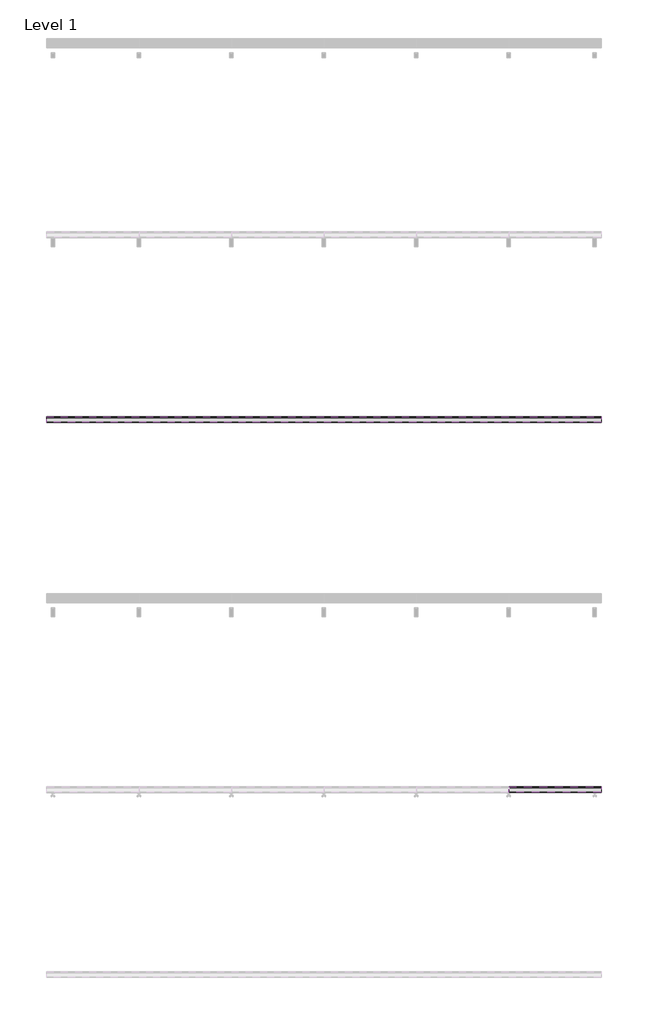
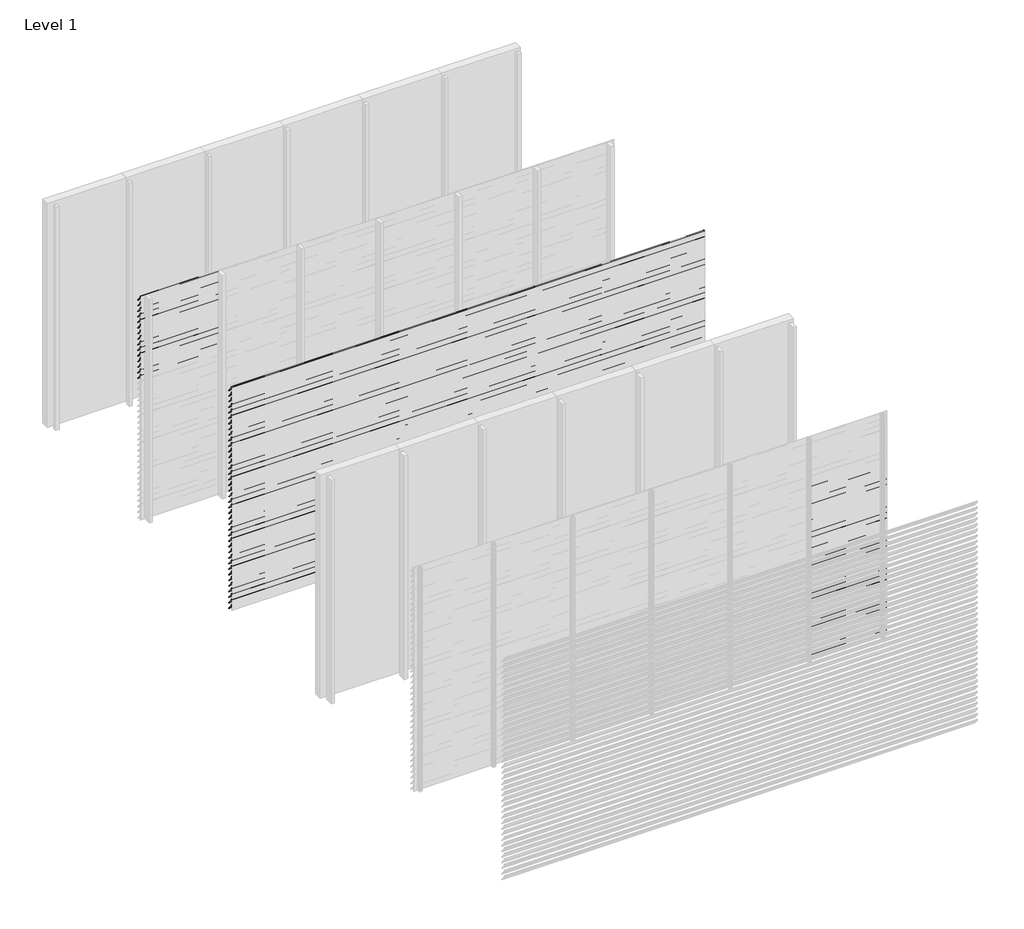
# One storey, part 13 of 35: 86 proxies.
"""IFC4 building model written with IfcOpenShell, lengths in millimetres."""

import ifcopenshell
import ifcopenshell.guid

model = None  # the IFC model being written
_history = None  # IfcOwnerHistory: only IFC2X3 demands one
_inside = {}  # id of a spatial element -> (the spatial element, [elements in it])
_under = {}  # id of a project, library or spatial element -> (it, [spatial elements below it])
_declared = {}  # id of a project -> (the project, [libraries it declares])
_typed = {}  # id of a type object -> (the type object, [elements of that type])
_made_of = {}  # id of a material, layer set ... -> (it, [elements and type objects made of it])


def new_model(schema):
    """Start an empty IFC model of exactly this schema.

    Asked for "IFC4X3", IfcOpenShell would pick the latest addendum, in which some entities
    have other attributes; the version numbers below select the first issue.
    IFC2X3 requires an IfcOwnerHistory on every rooted entity: one is made here for all.
    """
    global model, _history
    if schema == "IFC4X3":
        model = ifcopenshell.file(schema_version=(4, 3, 0, 0))
    else:
        model = ifcopenshell.file(schema=schema)
    _inside.clear()
    _under.clear()
    _declared.clear()
    _typed.clear()
    _made_of.clear()
    _history = None
    if model.schema == "IFC2X3":
        org = make("IfcOrganization", Name="unknown")
        user = make(
            "IfcPersonAndOrganization",
            ThePerson=make("IfcPerson", FamilyName="unknown"),
            TheOrganization=org,
        )
        app = make(
            "IfcApplication",
            ApplicationDeveloper=org,
            Version="unknown",
            ApplicationFullName="unknown",
            ApplicationIdentifier="unknown",
        )
        _history = make(
            "IfcOwnerHistory",
            OwningUser=user,
            OwningApplication=app,
            ChangeAction="ADDED",
            CreationDate=0,
        )
    return model


def make(cls, **values):
    """One entity of the class cls with the attributes given. An attribute that is None is left unset."""
    return model.create_entity(
        cls, **{name: value for name, value in values.items() if value is not None}
    )


def rooted(cls, **values):
    """An entity with a GlobalId (a new one), such as an element, a storey or a relation."""
    return make(cls, GlobalId=ifcopenshell.guid.new(), OwnerHistory=_history, **values)


def si_unit(unit_type, name, prefix=None):
    """IfcSIUnit, for example si_unit("LENGTHUNIT", "METRE", prefix="MILLI")."""
    return make("IfcSIUnit", UnitType=unit_type, Prefix=prefix, Name=name)


def assignment(units):
    """IfcUnitAssignment: the units of a project."""
    return None if units is None else make("IfcUnitAssignment", Units=units)


def point(xyz):
    """IfcCartesianPoint."""
    return None if xyz is None else make("IfcCartesianPoint", Coordinates=xyz)


def direction(xyz):
    """IfcDirection."""
    return None if xyz is None else make("IfcDirection", DirectionRatios=xyz)


def frame(location, z_axis=None, x_axis=None):
    """IfcAxis2Placement3D, a coordinate frame: its origin and axes. An axis left out is left unset."""
    return make(
        "IfcAxis2Placement3D",
        Location=point(location),
        Axis=direction(z_axis),
        RefDirection=direction(x_axis),
    )


def origin():
    """The frame at (0, 0, 0) with its axes left unset."""
    return frame((0.0, 0.0, 0.0))


def place(relative_to, where):
    """IfcLocalPlacement: puts the frame where relative to a parent placement (None: the world)."""
    return make(
        "IfcLocalPlacement", PlacementRelTo=relative_to, RelativePlacement=where
    )


def context(
    kind, dimensions, precision=None, world=None, true_north=None, identifier=None
):
    """IfcGeometricRepresentationContext, for example the 3D "Model" context."""
    return make(
        "IfcGeometricRepresentationContext",
        ContextIdentifier=identifier,
        ContextType=kind,
        CoordinateSpaceDimension=dimensions,
        Precision=precision,
        WorldCoordinateSystem=world,
        TrueNorth=true_north,
    )


def project(units=None, contexts=None):
    """IfcProject with its units and contexts."""
    return rooted(
        "IfcProject",
        Name="project",
        RepresentationContexts=contexts,
        UnitsInContext=assignment(units),
    )


def spatial(cls, under=None, at=None, **own):
    """A site, building, storey or space (cls), placed at a placement, below another one or the project."""
    s = rooted(cls, ObjectPlacement=at, **own)
    if under is not None:
        _under.setdefault(under.id(), (under, []))[1].append(s)
    return s


def polyline(points):
    """IfcPolyline through the points."""
    return make("IfcPolyline", Points=[point(p) for p in points])


def outline(outer, holes=None, kind="AREA"):
    """IfcArbitraryClosedProfileDef: a profile drawn as a closed curve; with holes, ...WithVoids."""
    if holes is None:
        return make("IfcArbitraryClosedProfileDef", ProfileType=kind, OuterCurve=outer)
    return make(
        "IfcArbitraryProfileDefWithVoids",
        ProfileType=kind,
        OuterCurve=outer,
        InnerCurves=holes,
    )


def extrude(swept, where, along, depth):
    """IfcExtrudedAreaSolid: the profile swept, set in the frame where, extruded along a direction by depth."""
    return make(
        "IfcExtrudedAreaSolid",
        SweptArea=swept,
        Position=where,
        ExtrudedDirection=direction(along),
        Depth=depth,
    )


def shape(context_of_items, identifier, shape_type, items):
    """IfcShapeRepresentation: the items that make up one representation, for example the "Body"."""
    return make(
        "IfcShapeRepresentation",
        ContextOfItems=context_of_items,
        RepresentationIdentifier=identifier,
        RepresentationType=shape_type,
        Items=items,
    )


def made_of(thing, what):
    """Note that an element or type object is made of a material, layer set ...; save() writes the relation."""
    if what is not None:
        _made_of.setdefault(what.id(), (what, []))[1].append(thing)
    return thing


def element(
    cls,
    number,
    at=None,
    inside=None,
    cuts=None,
    type_object=None,
    material=None,
    context=None,
    identifier="Body",
    shape_type=None,
    held_by="IfcProductDefinitionShape",
    body=None,
    shapes=None,
    **own,
):
    """One element of the class cls, such as IfcWall. Its Tag is "e" and its number.

    at: its placement. inside: the storey or other place that contains it. cuts: it is an
    opening in that element (IfcRelVoidsElement). A single representation is given by context,
    identifier, shape_type and body (its items); several are given by shapes. held_by: the class
    of the entity that holds the representations. save() writes the other relations.
    """
    e = rooted(cls, Tag="e%d" % number, ObjectPlacement=at, **own)
    if body is not None:
        shapes = [shape(context, identifier, shape_type, body)]
    if shapes is not None:
        e.Representation = make(held_by, Representations=shapes)
    if inside is not None:
        _inside.setdefault(inside.id(), (inside, []))[1].append(e)
    if cuts is not None:
        rooted(
            "IfcRelVoidsElement", RelatingBuildingElement=cuts, RelatedOpeningElement=e
        )
    if type_object is not None:
        _typed.setdefault(type_object.id(), (type_object, []))[1].append(e)
    return made_of(e, material)


def aggregate(whole, parts):
    """IfcRelAggregates: a whole, such as a stair, and the parts it consists of."""
    return rooted("IfcRelAggregates", RelatingObject=whole, RelatedObjects=parts)


def save(model, path):
    """Write the relations noted so far, then the file.

    IfcRelAggregates (storeys below a building ...), IfcRelContainedInSpatialStructure (elements
    in a storey), IfcRelDefinesByType, IfcRelAssociatesMaterial and IfcRelDeclares: one each for
    every whole, place, type object, material and project.
    """
    for whole, parts in _under.values():
        aggregate(whole, parts)
    for where, things in _inside.values():
        rooted(
            "IfcRelContainedInSpatialStructure",
            RelatedElements=things,
            RelatingStructure=where,
        )
    for kind, things in _typed.values():
        rooted("IfcRelDefinesByType", RelatedObjects=things, RelatingType=kind)
    for what, things in _made_of.values():
        rooted("IfcRelAssociatesMaterial", RelatedObjects=things, RelatingMaterial=what)
    for by, libraries in _declared.values():
        rooted("IfcRelDeclares", RelatingContext=by, RelatedDefinitions=libraries)
    model.write(path)


model = new_model("IFC4")

# Units and contexts
model_context = context("Model", 3, world=origin())
ifc_project = project(units=[si_unit("LENGTHUNIT", "METRE", prefix="MILLI")], contexts=[model_context])

# Site, building, storey
site = spatial("IfcSite", under=ifc_project)
building = spatial("IfcBuilding", under=site)
storey = spatial("IfcBuildingStorey", under=building, Name="Level 1", Elevation=0.0)

# Proxies
placement = place(None, origin())
element("IfcBuildingElementProxy", 1, Name="Wall Sweeps", at=placement, inside=storey, context=model_context, shape_type="SweptSolid", body=[
    extrude(outline(polyline([(-35996.5, 3000.0), (-35996.5, 2985.5463701), (-35934.5, 2913.9330051), (-35934.5, 2910.4), (-35936.0, 2910.4), (-35936.0, 2913.3738975), (-35998.0, 2984.9872626), (-35998.0, 3000.0), (-35996.5, 3000.0)])), frame((0.0, 0.0, 0.0), z_axis=(1.0, 0.0, 0.0), x_axis=(0.0, 1.0, 0.0)), (0.0, 0.0, 1.0), 1000.0),
])
element("IfcBuildingElementProxy", 2, Name="Wall Sweeps", at=placement, inside=storey, context=model_context, shape_type="SweptSolid", body=[
    extrude(outline(polyline([(-35996.5, 2925.0), (-35996.5, 2910.5463701), (-35934.5, 2838.9330051), (-35934.5, 2835.4), (-35936.0, 2835.4), (-35936.0, 2838.3738975), (-35998.0, 2909.9872626), (-35998.0, 2925.0), (-35996.5, 2925.0)])), frame((0.0, 0.0, 0.0), z_axis=(1.0, 0.0, 0.0), x_axis=(0.0, 1.0, 0.0)), (0.0, 0.0, 1.0), 1000.0),
])
element("IfcBuildingElementProxy", 3, Name="Wall Sweeps", at=placement, inside=storey, context=model_context, shape_type="SweptSolid", body=[
    extrude(outline(polyline([(-35996.5, 2850.0), (-35996.5, 2835.5463701), (-35934.5, 2763.9330051), (-35934.5, 2760.4), (-35936.0, 2760.4), (-35936.0, 2763.3738975), (-35998.0, 2834.9872626), (-35998.0, 2850.0), (-35996.5, 2850.0)])), frame((0.0, 0.0, 0.0), z_axis=(1.0, 0.0, 0.0), x_axis=(0.0, 1.0, 0.0)), (0.0, 0.0, 1.0), 1000.0),
])
element("IfcBuildingElementProxy", 4, Name="Wall Sweeps", at=placement, inside=storey, context=model_context, shape_type="SweptSolid", body=[
    extrude(outline(polyline([(-35996.5, 2775.0), (-35996.5, 2760.5463701), (-35934.5, 2688.9330051), (-35934.5, 2685.4), (-35936.0, 2685.4), (-35936.0, 2688.3738975), (-35998.0, 2759.9872626), (-35998.0, 2775.0), (-35996.5, 2775.0)])), frame((0.0, 0.0, 0.0), z_axis=(1.0, 0.0, 0.0), x_axis=(0.0, 1.0, 0.0)), (0.0, 0.0, 1.0), 1000.0),
])
element("IfcBuildingElementProxy", 5, Name="Wall Sweeps", at=placement, inside=storey, context=model_context, shape_type="SweptSolid", body=[
    extrude(outline(polyline([(-35996.5, 2700.0), (-35996.5, 2685.5463701), (-35934.5, 2613.9330051), (-35934.5, 2610.4), (-35936.0, 2610.4), (-35936.0, 2613.3738975), (-35998.0, 2684.9872626), (-35998.0, 2700.0), (-35996.5, 2700.0)])), frame((0.0, 0.0, 0.0), z_axis=(1.0, 0.0, 0.0), x_axis=(0.0, 1.0, 0.0)), (0.0, 0.0, 1.0), 1000.0),
])
element("IfcBuildingElementProxy", 6, Name="Wall Sweeps", at=placement, inside=storey, context=model_context, shape_type="SweptSolid", body=[
    extrude(outline(polyline([(-35996.5, 2625.0), (-35996.5, 2610.5463701), (-35934.5, 2538.9330051), (-35934.5, 2535.4), (-35936.0, 2535.4), (-35936.0, 2538.3738975), (-35998.0, 2609.9872626), (-35998.0, 2625.0), (-35996.5, 2625.0)])), frame((0.0, 0.0, 0.0), z_axis=(1.0, 0.0, 0.0), x_axis=(0.0, 1.0, 0.0)), (0.0, 0.0, 1.0), 1000.0),
])
element("IfcBuildingElementProxy", 7, Name="Wall Sweeps", at=placement, inside=storey, context=model_context, shape_type="SweptSolid", body=[
    extrude(outline(polyline([(-35996.5, 2550.0), (-35996.5, 2535.5463701), (-35934.5, 2463.9330051), (-35934.5, 2460.4), (-35936.0, 2460.4), (-35936.0, 2463.3738975), (-35998.0, 2534.9872626), (-35998.0, 2550.0), (-35996.5, 2550.0)])), frame((0.0, 0.0, 0.0), z_axis=(1.0, 0.0, 0.0), x_axis=(0.0, 1.0, 0.0)), (0.0, 0.0, 1.0), 1000.0),
])
element("IfcBuildingElementProxy", 8, Name="Wall Sweeps", at=placement, inside=storey, context=model_context, shape_type="SweptSolid", body=[
    extrude(outline(polyline([(-35996.5, 2475.0), (-35996.5, 2460.5463701), (-35934.5, 2388.9330051), (-35934.5, 2385.4), (-35936.0, 2385.4), (-35936.0, 2388.3738975), (-35998.0, 2459.9872626), (-35998.0, 2475.0), (-35996.5, 2475.0)])), frame((0.0, 0.0, 0.0), z_axis=(1.0, 0.0, 0.0), x_axis=(0.0, 1.0, 0.0)), (0.0, 0.0, 1.0), 1000.0),
])
element("IfcBuildingElementProxy", 9, Name="Wall Sweeps", at=placement, inside=storey, context=model_context, shape_type="SweptSolid", body=[
    extrude(outline(polyline([(-35996.5, 2400.0), (-35996.5, 2385.5463701), (-35934.5, 2313.9330051), (-35934.5, 2310.4), (-35936.0, 2310.4), (-35936.0, 2313.3738975), (-35998.0, 2384.9872626), (-35998.0, 2400.0), (-35996.5, 2400.0)])), frame((0.0, 0.0, 0.0), z_axis=(1.0, 0.0, 0.0), x_axis=(0.0, 1.0, 0.0)), (0.0, 0.0, 1.0), 1000.0),
])
element("IfcBuildingElementProxy", 10, Name="Wall Sweeps", at=placement, inside=storey, context=model_context, shape_type="SweptSolid", body=[
    extrude(outline(polyline([(-35996.5, 2325.0), (-35996.5, 2310.5463701), (-35934.5, 2238.9330051), (-35934.5, 2235.4), (-35936.0, 2235.4), (-35936.0, 2238.3738975), (-35998.0, 2309.9872626), (-35998.0, 2325.0), (-35996.5, 2325.0)])), frame((0.0, 0.0, 0.0), z_axis=(1.0, 0.0, 0.0), x_axis=(0.0, 1.0, 0.0)), (0.0, 0.0, 1.0), 1000.0),
])
element("IfcBuildingElementProxy", 11, Name="Wall Sweeps", at=placement, inside=storey, context=model_context, shape_type="SweptSolid", body=[
    extrude(outline(polyline([(-35996.5, 2250.0), (-35996.5, 2235.5463701), (-35934.5, 2163.9330051), (-35934.5, 2160.4), (-35936.0, 2160.4), (-35936.0, 2163.3738975), (-35998.0, 2234.9872626), (-35998.0, 2250.0), (-35996.5, 2250.0)])), frame((0.0, 0.0, 0.0), z_axis=(1.0, 0.0, 0.0), x_axis=(0.0, 1.0, 0.0)), (0.0, 0.0, 1.0), 1000.0),
])
element("IfcBuildingElementProxy", 12, Name="Wall Sweeps", at=placement, inside=storey, context=model_context, shape_type="SweptSolid", body=[
    extrude(outline(polyline([(-35996.5, 2175.0), (-35996.5, 2160.5463701), (-35934.5, 2088.9330051), (-35934.5, 2085.4), (-35936.0, 2085.4), (-35936.0, 2088.3738975), (-35998.0, 2159.9872626), (-35998.0, 2175.0), (-35996.5, 2175.0)])), frame((0.0, 0.0, 0.0), z_axis=(1.0, 0.0, 0.0), x_axis=(0.0, 1.0, 0.0)), (0.0, 0.0, 1.0), 1000.0),
])
element("IfcBuildingElementProxy", 13, Name="Wall Sweeps", at=placement, inside=storey, context=model_context, shape_type="SweptSolid", body=[
    extrude(outline(polyline([(-35996.5, 2100.0), (-35996.5, 2085.5463701), (-35934.5, 2013.9330051), (-35934.5, 2010.4), (-35936.0, 2010.4), (-35936.0, 2013.3738975), (-35998.0, 2084.9872626), (-35998.0, 2100.0), (-35996.5, 2100.0)])), frame((0.0, 0.0, 0.0), z_axis=(1.0, 0.0, 0.0), x_axis=(0.0, 1.0, 0.0)), (0.0, 0.0, 1.0), 1000.0),
])
element("IfcBuildingElementProxy", 14, Name="Wall Sweeps", at=placement, inside=storey, context=model_context, shape_type="SweptSolid", body=[
    extrude(outline(polyline([(-35996.5, 2025.0), (-35996.5, 2010.5463701), (-35934.5, 1938.9330051), (-35934.5, 1935.4), (-35936.0, 1935.4), (-35936.0, 1938.3738975), (-35998.0, 2009.9872626), (-35998.0, 2025.0), (-35996.5, 2025.0)])), frame((0.0, 0.0, 0.0), z_axis=(1.0, 0.0, 0.0), x_axis=(0.0, 1.0, 0.0)), (0.0, 0.0, 1.0), 1000.0),
])
element("IfcBuildingElementProxy", 15, Name="Wall Sweeps", at=placement, inside=storey, context=model_context, shape_type="SweptSolid", body=[
    extrude(outline(polyline([(-35996.5, 1950.0), (-35996.5, 1935.5463701), (-35934.5, 1863.9330051), (-35934.5, 1860.4), (-35936.0, 1860.4), (-35936.0, 1863.3738975), (-35998.0, 1934.9872626), (-35998.0, 1950.0), (-35996.5, 1950.0)])), frame((0.0, 0.0, 0.0), z_axis=(1.0, 0.0, 0.0), x_axis=(0.0, 1.0, 0.0)), (0.0, 0.0, 1.0), 1000.0),
])
element("IfcBuildingElementProxy", 16, Name="Wall Sweeps", at=placement, inside=storey, context=model_context, shape_type="SweptSolid", body=[
    extrude(outline(polyline([(-37996.5, 3000.0), (-37996.5, 2985.5463701), (-37934.5, 2913.9330051), (-37934.5, 2910.4), (-37936.0, 2910.4), (-37936.0, 2913.3738975), (-37998.0, 2984.9872626), (-37998.0, 3000.0), (-37996.5, 3000.0)])), frame((0.0, 0.0, 0.0), z_axis=(1.0, 0.0, 0.0), x_axis=(0.0, 1.0, 0.0)), (0.0, 0.0, 1.0), 6000.0),
])
element("IfcBuildingElementProxy", 17, Name="Wall Sweeps", at=placement, inside=storey, context=model_context, shape_type="SweptSolid", body=[
    extrude(outline(polyline([(-37996.5, 2925.0), (-37996.5, 2910.5463701), (-37934.5, 2838.9330051), (-37934.5, 2835.4), (-37936.0, 2835.4), (-37936.0, 2838.3738975), (-37998.0, 2909.9872626), (-37998.0, 2925.0), (-37996.5, 2925.0)])), frame((0.0, 0.0, 0.0), z_axis=(1.0, 0.0, 0.0), x_axis=(0.0, 1.0, 0.0)), (0.0, 0.0, 1.0), 6000.0),
])
element("IfcBuildingElementProxy", 18, Name="Wall Sweeps", at=placement, inside=storey, context=model_context, shape_type="SweptSolid", body=[
    extrude(outline(polyline([(-37996.5, 2850.0), (-37996.5, 2835.5463701), (-37934.5, 2763.9330051), (-37934.5, 2760.4), (-37936.0, 2760.4), (-37936.0, 2763.3738975), (-37998.0, 2834.9872626), (-37998.0, 2850.0), (-37996.5, 2850.0)])), frame((0.0, 0.0, 0.0), z_axis=(1.0, 0.0, 0.0), x_axis=(0.0, 1.0, 0.0)), (0.0, 0.0, 1.0), 6000.0),
])
element("IfcBuildingElementProxy", 19, Name="Wall Sweeps", at=placement, inside=storey, context=model_context, shape_type="SweptSolid", body=[
    extrude(outline(polyline([(-37996.5, 2775.0), (-37996.5, 2760.5463701), (-37934.5, 2688.9330051), (-37934.5, 2685.4), (-37936.0, 2685.4), (-37936.0, 2688.3738975), (-37998.0, 2759.9872626), (-37998.0, 2775.0), (-37996.5, 2775.0)])), frame((0.0, 0.0, 0.0), z_axis=(1.0, 0.0, 0.0), x_axis=(0.0, 1.0, 0.0)), (0.0, 0.0, 1.0), 6000.0),
])
element("IfcBuildingElementProxy", 20, Name="Wall Sweeps", at=placement, inside=storey, context=model_context, shape_type="SweptSolid", body=[
    extrude(outline(polyline([(-37996.5, 2700.0), (-37996.5, 2685.5463701), (-37934.5, 2613.9330051), (-37934.5, 2610.4), (-37936.0, 2610.4), (-37936.0, 2613.3738975), (-37998.0, 2684.9872626), (-37998.0, 2700.0), (-37996.5, 2700.0)])), frame((0.0, 0.0, 0.0), z_axis=(1.0, 0.0, 0.0), x_axis=(0.0, 1.0, 0.0)), (0.0, 0.0, 1.0), 6000.0),
])
element("IfcBuildingElementProxy", 21, Name="Wall Sweeps", at=placement, inside=storey, context=model_context, shape_type="SweptSolid", body=[
    extrude(outline(polyline([(-37996.5, 2625.0), (-37996.5, 2610.5463701), (-37934.5, 2538.9330051), (-37934.5, 2535.4), (-37936.0, 2535.4), (-37936.0, 2538.3738975), (-37998.0, 2609.9872626), (-37998.0, 2625.0), (-37996.5, 2625.0)])), frame((0.0, 0.0, 0.0), z_axis=(1.0, 0.0, 0.0), x_axis=(0.0, 1.0, 0.0)), (0.0, 0.0, 1.0), 6000.0),
])
element("IfcBuildingElementProxy", 22, Name="Wall Sweeps", at=placement, inside=storey, context=model_context, shape_type="SweptSolid", body=[
    extrude(outline(polyline([(-37996.5, 2550.0), (-37996.5, 2535.5463701), (-37934.5, 2463.9330051), (-37934.5, 2460.4), (-37936.0, 2460.4), (-37936.0, 2463.3738975), (-37998.0, 2534.9872626), (-37998.0, 2550.0), (-37996.5, 2550.0)])), frame((0.0, 0.0, 0.0), z_axis=(1.0, 0.0, 0.0), x_axis=(0.0, 1.0, 0.0)), (0.0, 0.0, 1.0), 6000.0),
])
element("IfcBuildingElementProxy", 23, Name="Wall Sweeps", at=placement, inside=storey, context=model_context, shape_type="SweptSolid", body=[
    extrude(outline(polyline([(-37996.5, 2475.0), (-37996.5, 2460.5463701), (-37934.5, 2388.9330051), (-37934.5, 2385.4), (-37936.0, 2385.4), (-37936.0, 2388.3738975), (-37998.0, 2459.9872626), (-37998.0, 2475.0), (-37996.5, 2475.0)])), frame((0.0, 0.0, 0.0), z_axis=(1.0, 0.0, 0.0), x_axis=(0.0, 1.0, 0.0)), (0.0, 0.0, 1.0), 6000.0),
])
element("IfcBuildingElementProxy", 24, Name="Wall Sweeps", at=placement, inside=storey, context=model_context, shape_type="SweptSolid", body=[
    extrude(outline(polyline([(-37996.5, 2400.0), (-37996.5, 2385.5463701), (-37934.5, 2313.9330051), (-37934.5, 2310.4), (-37936.0, 2310.4), (-37936.0, 2313.3738975), (-37998.0, 2384.9872626), (-37998.0, 2400.0), (-37996.5, 2400.0)])), frame((0.0, 0.0, 0.0), z_axis=(1.0, 0.0, 0.0), x_axis=(0.0, 1.0, 0.0)), (0.0, 0.0, 1.0), 6000.0),
])
element("IfcBuildingElementProxy", 25, Name="Wall Sweeps", at=placement, inside=storey, context=model_context, shape_type="SweptSolid", body=[
    extrude(outline(polyline([(-37996.5, 2325.0), (-37996.5, 2310.5463701), (-37934.5, 2238.9330051), (-37934.5, 2235.4), (-37936.0, 2235.4), (-37936.0, 2238.3738975), (-37998.0, 2309.9872626), (-37998.0, 2325.0), (-37996.5, 2325.0)])), frame((0.0, 0.0, 0.0), z_axis=(1.0, 0.0, 0.0), x_axis=(0.0, 1.0, 0.0)), (0.0, 0.0, 1.0), 6000.0),
])
element("IfcBuildingElementProxy", 26, Name="Wall Sweeps", at=placement, inside=storey, context=model_context, shape_type="SweptSolid", body=[
    extrude(outline(polyline([(-37996.5, 2250.0), (-37996.5, 2235.5463701), (-37934.5, 2163.9330051), (-37934.5, 2160.4), (-37936.0, 2160.4), (-37936.0, 2163.3738975), (-37998.0, 2234.9872626), (-37998.0, 2250.0), (-37996.5, 2250.0)])), frame((0.0, 0.0, 0.0), z_axis=(1.0, 0.0, 0.0), x_axis=(0.0, 1.0, 0.0)), (0.0, 0.0, 1.0), 6000.0),
])
element("IfcBuildingElementProxy", 27, Name="Wall Sweeps", at=placement, inside=storey, context=model_context, shape_type="SweptSolid", body=[
    extrude(outline(polyline([(-37996.5, 2175.0), (-37996.5, 2160.5463701), (-37934.5, 2088.9330051), (-37934.5, 2085.4), (-37936.0, 2085.4), (-37936.0, 2088.3738975), (-37998.0, 2159.9872626), (-37998.0, 2175.0), (-37996.5, 2175.0)])), frame((0.0, 0.0, 0.0), z_axis=(1.0, 0.0, 0.0), x_axis=(0.0, 1.0, 0.0)), (0.0, 0.0, 1.0), 6000.0),
])
element("IfcBuildingElementProxy", 28, Name="Wall Sweeps", at=placement, inside=storey, context=model_context, shape_type="SweptSolid", body=[
    extrude(outline(polyline([(-37996.5, 2100.0), (-37996.5, 2085.5463701), (-37934.5, 2013.9330051), (-37934.5, 2010.4), (-37936.0, 2010.4), (-37936.0, 2013.3738975), (-37998.0, 2084.9872626), (-37998.0, 2100.0), (-37996.5, 2100.0)])), frame((0.0, 0.0, 0.0), z_axis=(1.0, 0.0, 0.0), x_axis=(0.0, 1.0, 0.0)), (0.0, 0.0, 1.0), 6000.0),
])
element("IfcBuildingElementProxy", 29, Name="Wall Sweeps", at=placement, inside=storey, context=model_context, shape_type="SweptSolid", body=[
    extrude(outline(polyline([(-37996.5, 2025.0), (-37996.5, 2010.5463701), (-37934.5, 1938.9330051), (-37934.5, 1935.4), (-37936.0, 1935.4), (-37936.0, 1938.3738975), (-37998.0, 2009.9872626), (-37998.0, 2025.0), (-37996.5, 2025.0)])), frame((0.0, 0.0, 0.0), z_axis=(1.0, 0.0, 0.0), x_axis=(0.0, 1.0, 0.0)), (0.0, 0.0, 1.0), 6000.0),
])
element("IfcBuildingElementProxy", 30, Name="Wall Sweeps", at=placement, inside=storey, context=model_context, shape_type="SweptSolid", body=[
    extrude(outline(polyline([(-37996.5, 1950.0), (-37996.5, 1935.5463701), (-37934.5, 1863.9330051), (-37934.5, 1860.4), (-37936.0, 1860.4), (-37936.0, 1863.3738975), (-37998.0, 1934.9872626), (-37998.0, 1950.0), (-37996.5, 1950.0)])), frame((0.0, 0.0, 0.0), z_axis=(1.0, 0.0, 0.0), x_axis=(0.0, 1.0, 0.0)), (0.0, 0.0, 1.0), 6000.0),
])
element("IfcBuildingElementProxy", 31, Name="Wall Sweeps", at=placement, inside=storey, context=model_context, shape_type="SweptSolid", body=[
    extrude(outline(polyline([(-37996.5, 1875.0), (-37996.5, 1860.5463701), (-37934.5, 1788.9330051), (-37934.5, 1785.4), (-37936.0, 1785.4), (-37936.0, 1788.3738975), (-37998.0, 1859.9872626), (-37998.0, 1875.0), (-37996.5, 1875.0)])), frame((0.0, 0.0, 0.0), z_axis=(1.0, 0.0, 0.0), x_axis=(0.0, 1.0, 0.0)), (0.0, 0.0, 1.0), 6000.0),
])
element("IfcBuildingElementProxy", 32, Name="Wall Sweeps", at=placement, inside=storey, context=model_context, shape_type="SweptSolid", body=[
    extrude(outline(polyline([(-37996.5, 1800.0), (-37996.5, 1785.5463701), (-37934.5, 1713.9330051), (-37934.5, 1710.4), (-37936.0, 1710.4), (-37936.0, 1713.3738975), (-37998.0, 1784.9872626), (-37998.0, 1800.0), (-37996.5, 1800.0)])), frame((0.0, 0.0, 0.0), z_axis=(1.0, 0.0, 0.0), x_axis=(0.0, 1.0, 0.0)), (0.0, 0.0, 1.0), 6000.0),
])
element("IfcBuildingElementProxy", 33, Name="Wall Sweeps", at=placement, inside=storey, context=model_context, shape_type="SweptSolid", body=[
    extrude(outline(polyline([(-37996.5, 1725.0), (-37996.5, 1710.5463701), (-37934.5, 1638.9330051), (-37934.5, 1635.4), (-37936.0, 1635.4), (-37936.0, 1638.3738975), (-37998.0, 1709.9872626), (-37998.0, 1725.0), (-37996.5, 1725.0)])), frame((0.0, 0.0, 0.0), z_axis=(1.0, 0.0, 0.0), x_axis=(0.0, 1.0, 0.0)), (0.0, 0.0, 1.0), 6000.0),
])
element("IfcBuildingElementProxy", 34, Name="Wall Sweeps", at=placement, inside=storey, context=model_context, shape_type="SweptSolid", body=[
    extrude(outline(polyline([(-37996.5, 1650.0), (-37996.5, 1635.5463701), (-37934.5, 1563.9330051), (-37934.5, 1560.4), (-37936.0, 1560.4), (-37936.0, 1563.3738975), (-37998.0, 1634.9872626), (-37998.0, 1650.0), (-37996.5, 1650.0)])), frame((0.0, 0.0, 0.0), z_axis=(1.0, 0.0, 0.0), x_axis=(0.0, 1.0, 0.0)), (0.0, 0.0, 1.0), 6000.0),
])
element("IfcBuildingElementProxy", 35, Name="Wall Sweeps", at=placement, inside=storey, context=model_context, shape_type="SweptSolid", body=[
    extrude(outline(polyline([(-37996.5, 1575.0), (-37996.5, 1560.5463701), (-37934.5, 1488.9330051), (-37934.5, 1485.4), (-37936.0, 1485.4), (-37936.0, 1488.3738975), (-37998.0, 1559.9872626), (-37998.0, 1575.0), (-37996.5, 1575.0)])), frame((0.0, 0.0, 0.0), z_axis=(1.0, 0.0, 0.0), x_axis=(0.0, 1.0, 0.0)), (0.0, 0.0, 1.0), 6000.0),
])
element("IfcBuildingElementProxy", 36, Name="Wall Sweeps", at=placement, inside=storey, context=model_context, shape_type="SweptSolid", body=[
    extrude(outline(polyline([(-37996.5, 1500.0), (-37996.5, 1485.5463701), (-37934.5, 1413.9330051), (-37934.5, 1410.4), (-37936.0, 1410.4), (-37936.0, 1413.3738975), (-37998.0, 1484.9872626), (-37998.0, 1500.0), (-37996.5, 1500.0)])), frame((0.0, 0.0, 0.0), z_axis=(1.0, 0.0, 0.0), x_axis=(0.0, 1.0, 0.0)), (0.0, 0.0, 1.0), 6000.0),
])
element("IfcBuildingElementProxy", 37, Name="Wall Sweeps", at=placement, inside=storey, context=model_context, shape_type="SweptSolid", body=[
    extrude(outline(polyline([(-37996.5, 1425.0), (-37996.5, 1410.5463701), (-37934.5, 1338.9330051), (-37934.5, 1335.4), (-37936.0, 1335.4), (-37936.0, 1338.3738975), (-37998.0, 1409.9872626), (-37998.0, 1425.0), (-37996.5, 1425.0)])), frame((0.0, 0.0, 0.0), z_axis=(1.0, 0.0, 0.0), x_axis=(0.0, 1.0, 0.0)), (0.0, 0.0, 1.0), 6000.0),
])
element("IfcBuildingElementProxy", 38, Name="Wall Sweeps", at=placement, inside=storey, context=model_context, shape_type="SweptSolid", body=[
    extrude(outline(polyline([(-37996.5, 1350.0), (-37996.5, 1335.5463701), (-37934.5, 1263.9330051), (-37934.5, 1260.4), (-37936.0, 1260.4), (-37936.0, 1263.3738975), (-37998.0, 1334.9872626), (-37998.0, 1350.0), (-37996.5, 1350.0)])), frame((0.0, 0.0, 0.0), z_axis=(1.0, 0.0, 0.0), x_axis=(0.0, 1.0, 0.0)), (0.0, 0.0, 1.0), 6000.0),
])
element("IfcBuildingElementProxy", 39, Name="Wall Sweeps", at=placement, inside=storey, context=model_context, shape_type="SweptSolid", body=[
    extrude(outline(polyline([(-37996.5, 1275.0), (-37996.5, 1260.5463701), (-37934.5, 1188.9330051), (-37934.5, 1185.4), (-37936.0, 1185.4), (-37936.0, 1188.3738975), (-37998.0, 1259.9872626), (-37998.0, 1275.0), (-37996.5, 1275.0)])), frame((0.0, 0.0, 0.0), z_axis=(1.0, 0.0, 0.0), x_axis=(0.0, 1.0, 0.0)), (0.0, 0.0, 1.0), 6000.0),
])
element("IfcBuildingElementProxy", 40, Name="Wall Sweeps", at=placement, inside=storey, context=model_context, shape_type="SweptSolid", body=[
    extrude(outline(polyline([(-37996.5, 1200.0), (-37996.5, 1185.5463701), (-37934.5, 1113.9330051), (-37934.5, 1110.4), (-37936.0, 1110.4), (-37936.0, 1113.3738975), (-37998.0, 1184.9872626), (-37998.0, 1200.0), (-37996.5, 1200.0)])), frame((0.0, 0.0, 0.0), z_axis=(1.0, 0.0, 0.0), x_axis=(0.0, 1.0, 0.0)), (0.0, 0.0, 1.0), 6000.0),
])
element("IfcBuildingElementProxy", 41, Name="Wall Sweeps", at=placement, inside=storey, context=model_context, shape_type="SweptSolid", body=[
    extrude(outline(polyline([(-37996.5, 1125.0), (-37996.5, 1110.5463701), (-37934.5, 1038.9330051), (-37934.5, 1035.4), (-37936.0, 1035.4), (-37936.0, 1038.3738975), (-37998.0, 1109.9872626), (-37998.0, 1125.0), (-37996.5, 1125.0)])), frame((0.0, 0.0, 0.0), z_axis=(1.0, 0.0, 0.0), x_axis=(0.0, 1.0, 0.0)), (0.0, 0.0, 1.0), 6000.0),
])
element("IfcBuildingElementProxy", 42, Name="Wall Sweeps", at=placement, inside=storey, context=model_context, shape_type="SweptSolid", body=[
    extrude(outline(polyline([(-37996.5, 1050.0), (-37996.5, 1035.5463701), (-37934.5, 963.9330051), (-37934.5, 960.4), (-37936.0, 960.4), (-37936.0, 963.3738975), (-37998.0, 1034.9872626), (-37998.0, 1050.0), (-37996.5, 1050.0)])), frame((0.0, 0.0, 0.0), z_axis=(1.0, 0.0, 0.0), x_axis=(0.0, 1.0, 0.0)), (0.0, 0.0, 1.0), 6000.0),
])
element("IfcBuildingElementProxy", 43, Name="Wall Sweeps", at=placement, inside=storey, context=model_context, shape_type="SweptSolid", body=[
    extrude(outline(polyline([(-37996.5, 975.0), (-37996.5, 960.5463701), (-37934.5, 888.9330051), (-37934.5, 885.4), (-37936.0, 885.4), (-37936.0, 888.3738975), (-37998.0, 959.9872626), (-37998.0, 975.0), (-37996.5, 975.0)])), frame((0.0, 0.0, 0.0), z_axis=(1.0, 0.0, 0.0), x_axis=(0.0, 1.0, 0.0)), (0.0, 0.0, 1.0), 6000.0),
])
element("IfcBuildingElementProxy", 44, Name="Wall Sweeps", at=placement, inside=storey, context=model_context, shape_type="SweptSolid", body=[
    extrude(outline(polyline([(-37996.5, 900.0), (-37996.5, 885.5463701), (-37934.5, 813.9330051), (-37934.5, 810.4), (-37936.0, 810.4), (-37936.0, 813.3738975), (-37998.0, 884.9872626), (-37998.0, 900.0), (-37996.5, 900.0)])), frame((0.0, 0.0, 0.0), z_axis=(1.0, 0.0, 0.0), x_axis=(0.0, 1.0, 0.0)), (0.0, 0.0, 1.0), 6000.0),
])
element("IfcBuildingElementProxy", 45, Name="Wall Sweeps", at=placement, inside=storey, context=model_context, shape_type="SweptSolid", body=[
    extrude(outline(polyline([(-37996.5, 825.0), (-37996.5, 810.5463701), (-37934.5, 738.9330051), (-37934.5, 735.4), (-37936.0, 735.4), (-37936.0, 738.3738975), (-37998.0, 809.9872626), (-37998.0, 825.0), (-37996.5, 825.0)])), frame((0.0, 0.0, 0.0), z_axis=(1.0, 0.0, 0.0), x_axis=(0.0, 1.0, 0.0)), (0.0, 0.0, 1.0), 6000.0),
])
element("IfcBuildingElementProxy", 46, Name="Wall Sweeps", at=placement, inside=storey, context=model_context, shape_type="SweptSolid", body=[
    extrude(outline(polyline([(-37996.5, 750.0), (-37996.5, 735.5463701), (-37934.5, 663.9330051), (-37934.5, 660.4), (-37936.0, 660.4), (-37936.0, 663.3738975), (-37998.0, 734.9872626), (-37998.0, 750.0), (-37996.5, 750.0)])), frame((0.0, 0.0, 0.0), z_axis=(1.0, 0.0, 0.0), x_axis=(0.0, 1.0, 0.0)), (0.0, 0.0, 1.0), 6000.0),
])
element("IfcBuildingElementProxy", 47, Name="Wall Sweeps", at=placement, inside=storey, context=model_context, shape_type="SweptSolid", body=[
    extrude(outline(polyline([(-37996.5, 675.0), (-37996.5, 660.5463701), (-37934.5, 588.9330051), (-37934.5, 585.4), (-37936.0, 585.4), (-37936.0, 588.3738975), (-37998.0, 659.9872626), (-37998.0, 675.0), (-37996.5, 675.0)])), frame((0.0, 0.0, 0.0), z_axis=(1.0, 0.0, 0.0), x_axis=(0.0, 1.0, 0.0)), (0.0, 0.0, 1.0), 6000.0),
])
element("IfcBuildingElementProxy", 48, Name="Wall Sweeps", at=placement, inside=storey, context=model_context, shape_type="SweptSolid", body=[
    extrude(outline(polyline([(-37996.5, 600.0), (-37996.5, 585.5463701), (-37934.5, 513.9330051), (-37934.5, 510.4), (-37936.0, 510.4), (-37936.0, 513.3738975), (-37998.0, 584.9872626), (-37998.0, 600.0), (-37996.5, 600.0)])), frame((0.0, 0.0, 0.0), z_axis=(1.0, 0.0, 0.0), x_axis=(0.0, 1.0, 0.0)), (0.0, 0.0, 1.0), 6000.0),
])
element("IfcBuildingElementProxy", 49, Name="Wall Sweeps", at=placement, inside=storey, context=model_context, shape_type="SweptSolid", body=[
    extrude(outline(polyline([(-37996.5, 525.0), (-37996.5, 510.5463701), (-37934.5, 438.9330051), (-37934.5, 435.4), (-37936.0, 435.4), (-37936.0, 438.3738975), (-37998.0, 509.9872626), (-37998.0, 525.0), (-37996.5, 525.0)])), frame((0.0, 0.0, 0.0), z_axis=(1.0, 0.0, 0.0), x_axis=(0.0, 1.0, 0.0)), (0.0, 0.0, 1.0), 6000.0),
])
element("IfcBuildingElementProxy", 50, Name="Wall Sweeps", at=placement, inside=storey, context=model_context, shape_type="SweptSolid", body=[
    extrude(outline(polyline([(-37996.5, 450.0), (-37996.5, 435.5463701), (-37934.5, 363.9330051), (-37934.5, 360.4), (-37936.0, 360.4), (-37936.0, 363.3738975), (-37998.0, 434.9872626), (-37998.0, 450.0), (-37996.5, 450.0)])), frame((0.0, 0.0, 0.0), z_axis=(1.0, 0.0, 0.0), x_axis=(0.0, 1.0, 0.0)), (0.0, 0.0, 1.0), 6000.0),
])
element("IfcBuildingElementProxy", 51, Name="Wall Sweeps", at=placement, inside=storey, context=model_context, shape_type="SweptSolid", body=[
    extrude(outline(polyline([(-37996.5, 375.0), (-37996.5, 360.5463701), (-37934.5, 288.9330051), (-37934.5, 285.4), (-37936.0, 285.4), (-37936.0, 288.3738975), (-37998.0, 359.9872626), (-37998.0, 375.0), (-37996.5, 375.0)])), frame((0.0, 0.0, 0.0), z_axis=(1.0, 0.0, 0.0), x_axis=(0.0, 1.0, 0.0)), (0.0, 0.0, 1.0), 6000.0),
])
element("IfcBuildingElementProxy", 52, Name="Wall Sweeps", at=placement, inside=storey, context=model_context, shape_type="SweptSolid", body=[
    extrude(outline(polyline([(-37996.5, 300.0), (-37996.5, 285.5463701), (-37934.5, 213.9330051), (-37934.5, 210.4), (-37936.0, 210.4), (-37936.0, 213.3738975), (-37998.0, 284.9872626), (-37998.0, 300.0), (-37996.5, 300.0)])), frame((0.0, 0.0, 0.0), z_axis=(1.0, 0.0, 0.0), x_axis=(0.0, 1.0, 0.0)), (0.0, 0.0, 1.0), 6000.0),
])
element("IfcBuildingElementProxy", 53, Name="Wall Sweeps", at=placement, inside=storey, context=model_context, shape_type="SweptSolid", body=[
    extrude(outline(polyline([(-37996.5, 225.0), (-37996.5, 210.5463701), (-37934.5, 138.9330051), (-37934.5, 135.4), (-37936.0, 135.4), (-37936.0, 138.3738975), (-37998.0, 209.9872626), (-37998.0, 225.0), (-37996.5, 225.0)])), frame((0.0, 0.0, 0.0), z_axis=(1.0, 0.0, 0.0), x_axis=(0.0, 1.0, 0.0)), (0.0, 0.0, 1.0), 6000.0),
])
element("IfcBuildingElementProxy", 54, Name="Wall Sweeps", at=placement, inside=storey, context=model_context, shape_type="SweptSolid", body=[
    extrude(outline(polyline([(-37996.5, 150.0), (-37996.5, 135.5463701), (-37934.5, 63.9330051), (-37934.5, 60.4), (-37936.0, 60.4), (-37936.0, 63.3738975), (-37998.0, 134.9872626), (-37998.0, 150.0), (-37996.5, 150.0)])), frame((0.0, 0.0, 0.0), z_axis=(1.0, 0.0, 0.0), x_axis=(0.0, 1.0, 0.0)), (0.0, 0.0, 1.0), 6000.0),
])
element("IfcBuildingElementProxy", 55, Name="Wall Sweeps", at=placement, inside=storey, context=model_context, shape_type="SweptSolid", body=[
    extrude(outline(polyline([(-37996.5, 75.0), (-37996.5, 60.5463701), (-37934.5, -11.0669949), (-37934.5, -14.6), (-37936.0, -14.6), (-37936.0, -11.6261025), (-37998.0, 59.9872626), (-37998.0, 75.0), (-37996.5, 75.0)])), frame((0.0, 0.0, 0.0), z_axis=(1.0, 0.0, 0.0), x_axis=(0.0, 1.0, 0.0)), (0.0, 0.0, 1.0), 6000.0),
])
element("IfcBuildingElementProxy", 56, Name="Wall Sweeps", at=placement, inside=storey, context=model_context, shape_type="SweptSolid", body=[
    extrude(outline(polyline([(-41996.5, 2325.0), (-41996.5, 2310.5463701), (-41934.5, 2238.9330051), (-41934.5, 2235.4), (-41936.0, 2235.4), (-41936.0, 2238.3738975), (-41998.0, 2309.9872626), (-41998.0, 2325.0), (-41996.5, 2325.0)])), frame((5000.0, 0.0, 0.0), z_axis=(1.0, 0.0, 0.0), x_axis=(0.0, 1.0, 0.0)), (0.0, 0.0, 1.0), 1000.0),
])
element("IfcBuildingElementProxy", 57, Name="Wall Sweeps", at=placement, inside=storey, context=model_context, shape_type="SweptSolid", body=[
    extrude(outline(polyline([(-41996.5, 2250.0), (-41996.5, 2235.5463701), (-41934.5, 2163.9330051), (-41934.5, 2160.4), (-41936.0, 2160.4), (-41936.0, 2163.3738975), (-41998.0, 2234.9872626), (-41998.0, 2250.0), (-41996.5, 2250.0)])), frame((5000.0, 0.0, 0.0), z_axis=(1.0, 0.0, 0.0), x_axis=(0.0, 1.0, 0.0)), (0.0, 0.0, 1.0), 1000.0),
])
element("IfcBuildingElementProxy", 58, Name="Wall Sweeps", at=placement, inside=storey, context=model_context, shape_type="SweptSolid", body=[
    extrude(outline(polyline([(-41996.5, 2175.0), (-41996.5, 2160.5463701), (-41934.5, 2088.9330051), (-41934.5, 2085.4), (-41936.0, 2085.4), (-41936.0, 2088.3738975), (-41998.0, 2159.9872626), (-41998.0, 2175.0), (-41996.5, 2175.0)])), frame((5000.0, 0.0, 0.0), z_axis=(1.0, 0.0, 0.0), x_axis=(0.0, 1.0, 0.0)), (0.0, 0.0, 1.0), 1000.0),
])
element("IfcBuildingElementProxy", 59, Name="Wall Sweeps", at=placement, inside=storey, context=model_context, shape_type="SweptSolid", body=[
    extrude(outline(polyline([(-41996.5, 2100.0), (-41996.5, 2085.5463701), (-41934.5, 2013.9330051), (-41934.5, 2010.4), (-41936.0, 2010.4), (-41936.0, 2013.3738975), (-41998.0, 2084.9872626), (-41998.0, 2100.0), (-41996.5, 2100.0)])), frame((5000.0, 0.0, 0.0), z_axis=(1.0, 0.0, 0.0), x_axis=(0.0, 1.0, 0.0)), (0.0, 0.0, 1.0), 1000.0),
])
element("IfcBuildingElementProxy", 60, Name="Wall Sweeps", at=placement, inside=storey, context=model_context, shape_type="SweptSolid", body=[
    extrude(outline(polyline([(-41996.5, 2025.0), (-41996.5, 2010.5463701), (-41934.5, 1938.9330051), (-41934.5, 1935.4), (-41936.0, 1935.4), (-41936.0, 1938.3738975), (-41998.0, 2009.9872626), (-41998.0, 2025.0), (-41996.5, 2025.0)])), frame((5000.0, 0.0, 0.0), z_axis=(1.0, 0.0, 0.0), x_axis=(0.0, 1.0, 0.0)), (0.0, 0.0, 1.0), 1000.0),
])
element("IfcBuildingElementProxy", 61, Name="Wall Sweeps", at=placement, inside=storey, context=model_context, shape_type="SweptSolid", body=[
    extrude(outline(polyline([(-41996.5, 1950.0), (-41996.5, 1935.5463701), (-41934.5, 1863.9330051), (-41934.5, 1860.4), (-41936.0, 1860.4), (-41936.0, 1863.3738975), (-41998.0, 1934.9872626), (-41998.0, 1950.0), (-41996.5, 1950.0)])), frame((5000.0, 0.0, 0.0), z_axis=(1.0, 0.0, 0.0), x_axis=(0.0, 1.0, 0.0)), (0.0, 0.0, 1.0), 1000.0),
])
element("IfcBuildingElementProxy", 62, Name="Wall Sweeps", at=placement, inside=storey, context=model_context, shape_type="SweptSolid", body=[
    extrude(outline(polyline([(-41996.5, 1875.0), (-41996.5, 1860.5463701), (-41934.5, 1788.9330051), (-41934.5, 1785.4), (-41936.0, 1785.4), (-41936.0, 1788.3738975), (-41998.0, 1859.9872626), (-41998.0, 1875.0), (-41996.5, 1875.0)])), frame((5000.0, 0.0, 0.0), z_axis=(1.0, 0.0, 0.0), x_axis=(0.0, 1.0, 0.0)), (0.0, 0.0, 1.0), 1000.0),
])
element("IfcBuildingElementProxy", 63, Name="Wall Sweeps", at=placement, inside=storey, context=model_context, shape_type="SweptSolid", body=[
    extrude(outline(polyline([(-41996.5, 1800.0), (-41996.5, 1785.5463701), (-41934.5, 1713.9330051), (-41934.5, 1710.4), (-41936.0, 1710.4), (-41936.0, 1713.3738975), (-41998.0, 1784.9872626), (-41998.0, 1800.0), (-41996.5, 1800.0)])), frame((5000.0, 0.0, 0.0), z_axis=(1.0, 0.0, 0.0), x_axis=(0.0, 1.0, 0.0)), (0.0, 0.0, 1.0), 1000.0),
])
element("IfcBuildingElementProxy", 64, Name="Wall Sweeps", at=placement, inside=storey, context=model_context, shape_type="SweptSolid", body=[
    extrude(outline(polyline([(-41996.5, 1725.0), (-41996.5, 1710.5463701), (-41934.5, 1638.9330051), (-41934.5, 1635.4), (-41936.0, 1635.4), (-41936.0, 1638.3738975), (-41998.0, 1709.9872626), (-41998.0, 1725.0), (-41996.5, 1725.0)])), frame((5000.0, 0.0, 0.0), z_axis=(1.0, 0.0, 0.0), x_axis=(0.0, 1.0, 0.0)), (0.0, 0.0, 1.0), 1000.0),
])
element("IfcBuildingElementProxy", 65, Name="Wall Sweeps", at=placement, inside=storey, context=model_context, shape_type="SweptSolid", body=[
    extrude(outline(polyline([(-41996.5, 1650.0), (-41996.5, 1635.5463701), (-41934.5, 1563.9330051), (-41934.5, 1560.4), (-41936.0, 1560.4), (-41936.0, 1563.3738975), (-41998.0, 1634.9872626), (-41998.0, 1650.0), (-41996.5, 1650.0)])), frame((5000.0, 0.0, 0.0), z_axis=(1.0, 0.0, 0.0), x_axis=(0.0, 1.0, 0.0)), (0.0, 0.0, 1.0), 1000.0),
])
element("IfcBuildingElementProxy", 66, Name="Wall Sweeps", at=placement, inside=storey, context=model_context, shape_type="SweptSolid", body=[
    extrude(outline(polyline([(-41996.5, 1575.0), (-41996.5, 1560.5463701), (-41934.5, 1488.9330051), (-41934.5, 1485.4), (-41936.0, 1485.4), (-41936.0, 1488.3738975), (-41998.0, 1559.9872626), (-41998.0, 1575.0), (-41996.5, 1575.0)])), frame((5000.0, 0.0, 0.0), z_axis=(1.0, 0.0, 0.0), x_axis=(0.0, 1.0, 0.0)), (0.0, 0.0, 1.0), 1000.0),
])
element("IfcBuildingElementProxy", 67, Name="Wall Sweeps", at=placement, inside=storey, context=model_context, shape_type="SweptSolid", body=[
    extrude(outline(polyline([(-41996.5, 1500.0), (-41996.5, 1485.5463701), (-41934.5, 1413.9330051), (-41934.5, 1410.4), (-41936.0, 1410.4), (-41936.0, 1413.3738975), (-41998.0, 1484.9872626), (-41998.0, 1500.0), (-41996.5, 1500.0)])), frame((5000.0, 0.0, 0.0), z_axis=(1.0, 0.0, 0.0), x_axis=(0.0, 1.0, 0.0)), (0.0, 0.0, 1.0), 1000.0),
])
element("IfcBuildingElementProxy", 68, Name="Wall Sweeps", at=placement, inside=storey, context=model_context, shape_type="SweptSolid", body=[
    extrude(outline(polyline([(-41996.5, 1425.0), (-41996.5, 1410.5463701), (-41934.5, 1338.9330051), (-41934.5, 1335.4), (-41936.0, 1335.4), (-41936.0, 1338.3738975), (-41998.0, 1409.9872626), (-41998.0, 1425.0), (-41996.5, 1425.0)])), frame((5000.0, 0.0, 0.0), z_axis=(1.0, 0.0, 0.0), x_axis=(0.0, 1.0, 0.0)), (0.0, 0.0, 1.0), 1000.0),
])
element("IfcBuildingElementProxy", 69, Name="Wall Sweeps", at=placement, inside=storey, context=model_context, shape_type="SweptSolid", body=[
    extrude(outline(polyline([(-41996.5, 1350.0), (-41996.5, 1335.5463701), (-41934.5, 1263.9330051), (-41934.5, 1260.4), (-41936.0, 1260.4), (-41936.0, 1263.3738975), (-41998.0, 1334.9872626), (-41998.0, 1350.0), (-41996.5, 1350.0)])), frame((5000.0, 0.0, 0.0), z_axis=(1.0, 0.0, 0.0), x_axis=(0.0, 1.0, 0.0)), (0.0, 0.0, 1.0), 1000.0),
])
element("IfcBuildingElementProxy", 70, Name="Wall Sweeps", at=placement, inside=storey, context=model_context, shape_type="SweptSolid", body=[
    extrude(outline(polyline([(-41996.5, 1275.0), (-41996.5, 1260.5463701), (-41934.5, 1188.9330051), (-41934.5, 1185.4), (-41936.0, 1185.4), (-41936.0, 1188.3738975), (-41998.0, 1259.9872626), (-41998.0, 1275.0), (-41996.5, 1275.0)])), frame((5000.0, 0.0, 0.0), z_axis=(1.0, 0.0, 0.0), x_axis=(0.0, 1.0, 0.0)), (0.0, 0.0, 1.0), 1000.0),
])
element("IfcBuildingElementProxy", 71, Name="Wall Sweeps", at=placement, inside=storey, context=model_context, shape_type="SweptSolid", body=[
    extrude(outline(polyline([(-41996.5, 1200.0), (-41996.5, 1185.5463701), (-41934.5, 1113.9330051), (-41934.5, 1110.4), (-41936.0, 1110.4), (-41936.0, 1113.3738975), (-41998.0, 1184.9872626), (-41998.0, 1200.0), (-41996.5, 1200.0)])), frame((5000.0, 0.0, 0.0), z_axis=(1.0, 0.0, 0.0), x_axis=(0.0, 1.0, 0.0)), (0.0, 0.0, 1.0), 1000.0),
])
element("IfcBuildingElementProxy", 72, Name="Wall Sweeps", at=placement, inside=storey, context=model_context, shape_type="SweptSolid", body=[
    extrude(outline(polyline([(-41996.5, 1125.0), (-41996.5, 1110.5463701), (-41934.5, 1038.9330051), (-41934.5, 1035.4), (-41936.0, 1035.4), (-41936.0, 1038.3738975), (-41998.0, 1109.9872626), (-41998.0, 1125.0), (-41996.5, 1125.0)])), frame((5000.0, 0.0, 0.0), z_axis=(1.0, 0.0, 0.0), x_axis=(0.0, 1.0, 0.0)), (0.0, 0.0, 1.0), 1000.0),
])
element("IfcBuildingElementProxy", 73, Name="Wall Sweeps", at=placement, inside=storey, context=model_context, shape_type="SweptSolid", body=[
    extrude(outline(polyline([(-41996.5, 1050.0), (-41996.5, 1035.5463701), (-41934.5, 963.9330051), (-41934.5, 960.4), (-41936.0, 960.4), (-41936.0, 963.3738975), (-41998.0, 1034.9872626), (-41998.0, 1050.0), (-41996.5, 1050.0)])), frame((5000.0, 0.0, 0.0), z_axis=(1.0, 0.0, 0.0), x_axis=(0.0, 1.0, 0.0)), (0.0, 0.0, 1.0), 1000.0),
])
element("IfcBuildingElementProxy", 74, Name="Wall Sweeps", at=placement, inside=storey, context=model_context, shape_type="SweptSolid", body=[
    extrude(outline(polyline([(-41996.5, 975.0), (-41996.5, 960.5463701), (-41934.5, 888.9330051), (-41934.5, 885.4), (-41936.0, 885.4), (-41936.0, 888.3738975), (-41998.0, 959.9872626), (-41998.0, 975.0), (-41996.5, 975.0)])), frame((5000.0, 0.0, 0.0), z_axis=(1.0, 0.0, 0.0), x_axis=(0.0, 1.0, 0.0)), (0.0, 0.0, 1.0), 1000.0),
])
element("IfcBuildingElementProxy", 75, Name="Wall Sweeps", at=placement, inside=storey, context=model_context, shape_type="SweptSolid", body=[
    extrude(outline(polyline([(-41996.5, 900.0), (-41996.5, 885.5463701), (-41934.5, 813.9330051), (-41934.5, 810.4), (-41936.0, 810.4), (-41936.0, 813.3738975), (-41998.0, 884.9872626), (-41998.0, 900.0), (-41996.5, 900.0)])), frame((5000.0, 0.0, 0.0), z_axis=(1.0, 0.0, 0.0), x_axis=(0.0, 1.0, 0.0)), (0.0, 0.0, 1.0), 1000.0),
])
element("IfcBuildingElementProxy", 76, Name="Wall Sweeps", at=placement, inside=storey, context=model_context, shape_type="SweptSolid", body=[
    extrude(outline(polyline([(-41996.5, 825.0), (-41996.5, 810.5463701), (-41934.5, 738.9330051), (-41934.5, 735.4), (-41936.0, 735.4), (-41936.0, 738.3738975), (-41998.0, 809.9872626), (-41998.0, 825.0), (-41996.5, 825.0)])), frame((5000.0, 0.0, 0.0), z_axis=(1.0, 0.0, 0.0), x_axis=(0.0, 1.0, 0.0)), (0.0, 0.0, 1.0), 1000.0),
])
element("IfcBuildingElementProxy", 77, Name="Wall Sweeps", at=placement, inside=storey, context=model_context, shape_type="SweptSolid", body=[
    extrude(outline(polyline([(-41996.5, 750.0), (-41996.5, 735.5463701), (-41934.5, 663.9330051), (-41934.5, 660.4), (-41936.0, 660.4), (-41936.0, 663.3738975), (-41998.0, 734.9872626), (-41998.0, 750.0), (-41996.5, 750.0)])), frame((5000.0, 0.0, 0.0), z_axis=(1.0, 0.0, 0.0), x_axis=(0.0, 1.0, 0.0)), (0.0, 0.0, 1.0), 1000.0),
])
element("IfcBuildingElementProxy", 78, Name="Wall Sweeps", at=placement, inside=storey, context=model_context, shape_type="SweptSolid", body=[
    extrude(outline(polyline([(-41996.5, 675.0), (-41996.5, 660.5463701), (-41934.5, 588.9330051), (-41934.5, 585.4), (-41936.0, 585.4), (-41936.0, 588.3738975), (-41998.0, 659.9872626), (-41998.0, 675.0), (-41996.5, 675.0)])), frame((5000.0, 0.0, 0.0), z_axis=(1.0, 0.0, 0.0), x_axis=(0.0, 1.0, 0.0)), (0.0, 0.0, 1.0), 1000.0),
])
element("IfcBuildingElementProxy", 79, Name="Wall Sweeps", at=placement, inside=storey, context=model_context, shape_type="SweptSolid", body=[
    extrude(outline(polyline([(-41996.5, 600.0), (-41996.5, 585.5463701), (-41934.5, 513.9330051), (-41934.5, 510.4), (-41936.0, 510.4), (-41936.0, 513.3738975), (-41998.0, 584.9872626), (-41998.0, 600.0), (-41996.5, 600.0)])), frame((5000.0, 0.0, 0.0), z_axis=(1.0, 0.0, 0.0), x_axis=(0.0, 1.0, 0.0)), (0.0, 0.0, 1.0), 1000.0),
])
element("IfcBuildingElementProxy", 80, Name="Wall Sweeps", at=placement, inside=storey, context=model_context, shape_type="SweptSolid", body=[
    extrude(outline(polyline([(-41996.5, 525.0), (-41996.5, 510.5463701), (-41934.5, 438.9330051), (-41934.5, 435.4), (-41936.0, 435.4), (-41936.0, 438.3738975), (-41998.0, 509.9872626), (-41998.0, 525.0), (-41996.5, 525.0)])), frame((5000.0, 0.0, 0.0), z_axis=(1.0, 0.0, 0.0), x_axis=(0.0, 1.0, 0.0)), (0.0, 0.0, 1.0), 1000.0),
])
element("IfcBuildingElementProxy", 81, Name="Wall Sweeps", at=placement, inside=storey, context=model_context, shape_type="SweptSolid", body=[
    extrude(outline(polyline([(-41996.5, 450.0), (-41996.5, 435.5463701), (-41934.5, 363.9330051), (-41934.5, 360.4), (-41936.0, 360.4), (-41936.0, 363.3738975), (-41998.0, 434.9872626), (-41998.0, 450.0), (-41996.5, 450.0)])), frame((5000.0, 0.0, 0.0), z_axis=(1.0, 0.0, 0.0), x_axis=(0.0, 1.0, 0.0)), (0.0, 0.0, 1.0), 1000.0),
])
element("IfcBuildingElementProxy", 82, Name="Wall Sweeps", at=placement, inside=storey, context=model_context, shape_type="SweptSolid", body=[
    extrude(outline(polyline([(-41996.5, 375.0), (-41996.5, 360.5463701), (-41934.5, 288.9330051), (-41934.5, 285.4), (-41936.0, 285.4), (-41936.0, 288.3738975), (-41998.0, 359.9872626), (-41998.0, 375.0), (-41996.5, 375.0)])), frame((5000.0, 0.0, 0.0), z_axis=(1.0, 0.0, 0.0), x_axis=(0.0, 1.0, 0.0)), (0.0, 0.0, 1.0), 1000.0),
])
element("IfcBuildingElementProxy", 83, Name="Wall Sweeps", at=placement, inside=storey, context=model_context, shape_type="SweptSolid", body=[
    extrude(outline(polyline([(-41996.5, 300.0), (-41996.5, 285.5463701), (-41934.5, 213.9330051), (-41934.5, 210.4), (-41936.0, 210.4), (-41936.0, 213.3738975), (-41998.0, 284.9872626), (-41998.0, 300.0), (-41996.5, 300.0)])), frame((5000.0, 0.0, 0.0), z_axis=(1.0, 0.0, 0.0), x_axis=(0.0, 1.0, 0.0)), (0.0, 0.0, 1.0), 1000.0),
])
element("IfcBuildingElementProxy", 84, Name="Wall Sweeps", at=placement, inside=storey, context=model_context, shape_type="SweptSolid", body=[
    extrude(outline(polyline([(-41996.5, 225.0), (-41996.5, 210.5463701), (-41934.5, 138.9330051), (-41934.5, 135.4), (-41936.0, 135.4), (-41936.0, 138.3738975), (-41998.0, 209.9872626), (-41998.0, 225.0), (-41996.5, 225.0)])), frame((5000.0, 0.0, 0.0), z_axis=(1.0, 0.0, 0.0), x_axis=(0.0, 1.0, 0.0)), (0.0, 0.0, 1.0), 1000.0),
])
element("IfcBuildingElementProxy", 85, Name="Wall Sweeps", at=placement, inside=storey, context=model_context, shape_type="SweptSolid", body=[
    extrude(outline(polyline([(-41996.5, 150.0), (-41996.5, 135.5463701), (-41934.5, 63.9330051), (-41934.5, 60.4), (-41936.0, 60.4), (-41936.0, 63.3738975), (-41998.0, 134.9872626), (-41998.0, 150.0), (-41996.5, 150.0)])), frame((5000.0, 0.0, 0.0), z_axis=(1.0, 0.0, 0.0), x_axis=(0.0, 1.0, 0.0)), (0.0, 0.0, 1.0), 1000.0),
])
element("IfcBuildingElementProxy", 86, Name="Wall Sweeps", at=placement, inside=storey, context=model_context, shape_type="SweptSolid", body=[
    extrude(outline(polyline([(-41996.5, 75.0), (-41996.5, 60.5463701), (-41934.5, -11.0669949), (-41934.5, -14.6), (-41936.0, -14.6), (-41936.0, -11.6261025), (-41998.0, 59.9872626), (-41998.0, 75.0), (-41996.5, 75.0)])), frame((5000.0, 0.0, 0.0), z_axis=(1.0, 0.0, 0.0), x_axis=(0.0, 1.0, 0.0)), (0.0, 0.0, 1.0), 1000.0),
])

save(model, "model.ifc")
